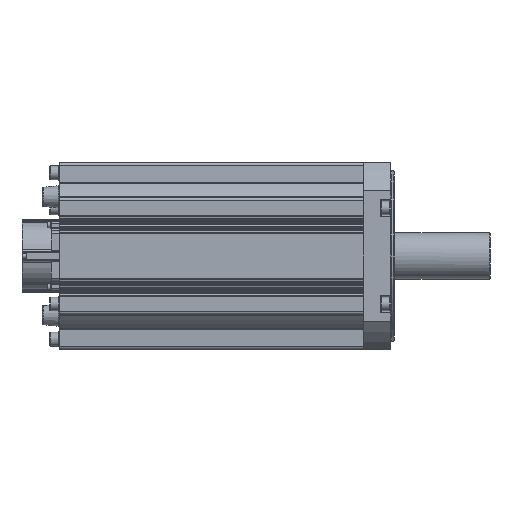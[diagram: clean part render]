
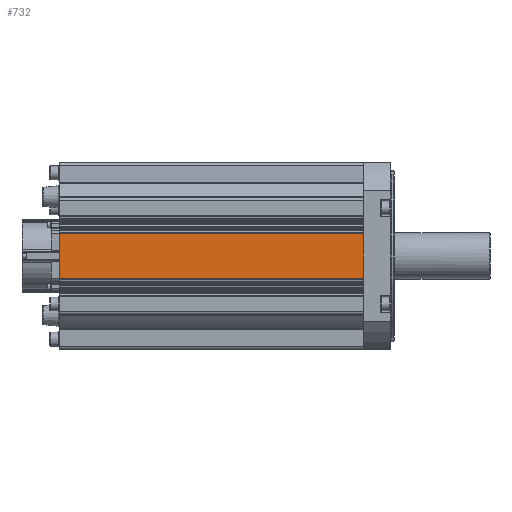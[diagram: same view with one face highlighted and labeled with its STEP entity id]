
A CAD part, front view. The second image highlights one B-rep face of the part: STEP entity #732.
In plain terms, the highlighted planar face has unit normal (0, -1, 0).
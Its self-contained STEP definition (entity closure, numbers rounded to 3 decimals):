
#732 = ADVANCED_FACE( '', ( #2618 ), #2619, .T. );
#2618 = FACE_OUTER_BOUND( '', #4998, .T. );
#2619 = PLANE( '', #4999 );
#4998 = EDGE_LOOP( '', ( #10925, #10926, #10927, #10928 ) );
#4999 = AXIS2_PLACEMENT_3D( '', #10929, #10930, #10931 );
#10925 = ORIENTED_EDGE( '', *, *, #15791, .F. );
#10926 = ORIENTED_EDGE( '', *, *, #15792, .F. );
#10927 = ORIENTED_EDGE( '', *, *, #14871, .T. );
#10928 = ORIENTED_EDGE( '', *, *, #15790, .T. );
#10929 = CARTESIAN_POINT( '', ( -388., -109., 26. ) );
#10930 = DIRECTION( '', ( 0., -1., 0. ) );
#10931 = DIRECTION( '', ( 0., 0., -1. ) );
#14871 = EDGE_CURVE( '', #18057, #18055, #18058, .T. );
#15790 = EDGE_CURVE( '', #18055, #19542, #19544, .T. );
#15791 = EDGE_CURVE( '', #19545, #19542, #19546, .T. );
#15792 = EDGE_CURVE( '', #18057, #19545, #19547, .T. );
#18055 = VERTEX_POINT( '', #22928 );
#18057 = VERTEX_POINT( '', #22930 );
#18058 = LINE( '', #22931, #22932 );
#19542 = VERTEX_POINT( '', #25194 );
#19544 = LINE( '', #25196, #25197 );
#19545 = VERTEX_POINT( '', #25198 );
#19546 = LINE( '', #25199, #25200 );
#19547 = LINE( '', #25201, #25202 );
#22928 = CARTESIAN_POINT( '', ( -388., -109., -26. ) );
#22930 = CARTESIAN_POINT( '', ( -388., -109., 26. ) );
#22931 = CARTESIAN_POINT( '', ( -388., -109., 26. ) );
#22932 = VECTOR( '', #28914, 1000. );
#25194 = CARTESIAN_POINT( '', ( -32., -109., -26. ) );
#25196 = CARTESIAN_POINT( '', ( -388., -109., -26. ) );
#25197 = VECTOR( '', #30277, 1000. );
#25198 = CARTESIAN_POINT( '', ( -32., -109., 26. ) );
#25199 = CARTESIAN_POINT( '', ( -32., -109., 26. ) );
#25200 = VECTOR( '', #30278, 1000. );
#25201 = CARTESIAN_POINT( '', ( -388., -109., 26. ) );
#25202 = VECTOR( '', #30279, 1000. );
#28914 = DIRECTION( '', ( 0., 0., -1. ) );
#30277 = DIRECTION( '', ( 1., 0., 0. ) );
#30278 = DIRECTION( '', ( 0., 0., -1. ) );
#30279 = DIRECTION( '', ( 1., 0., 0. ) );
